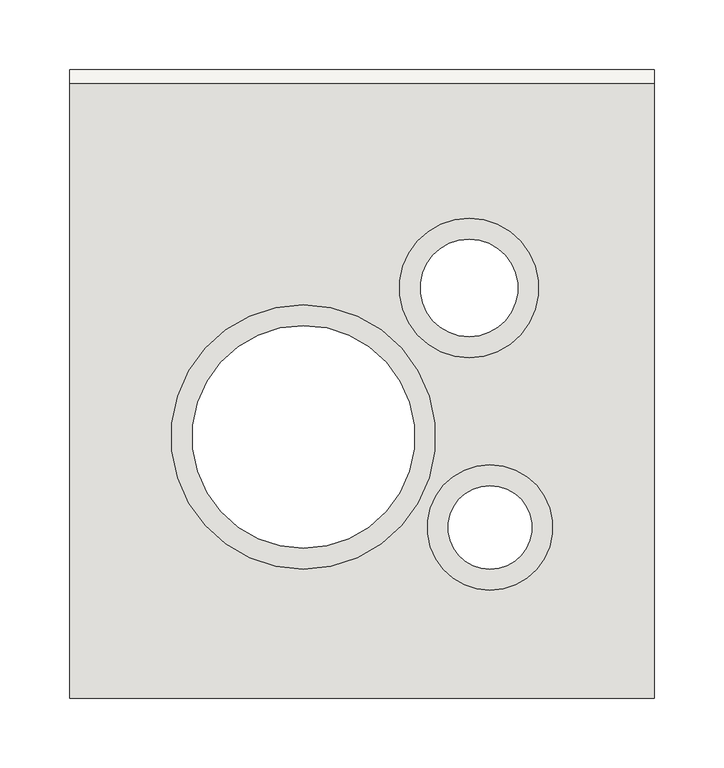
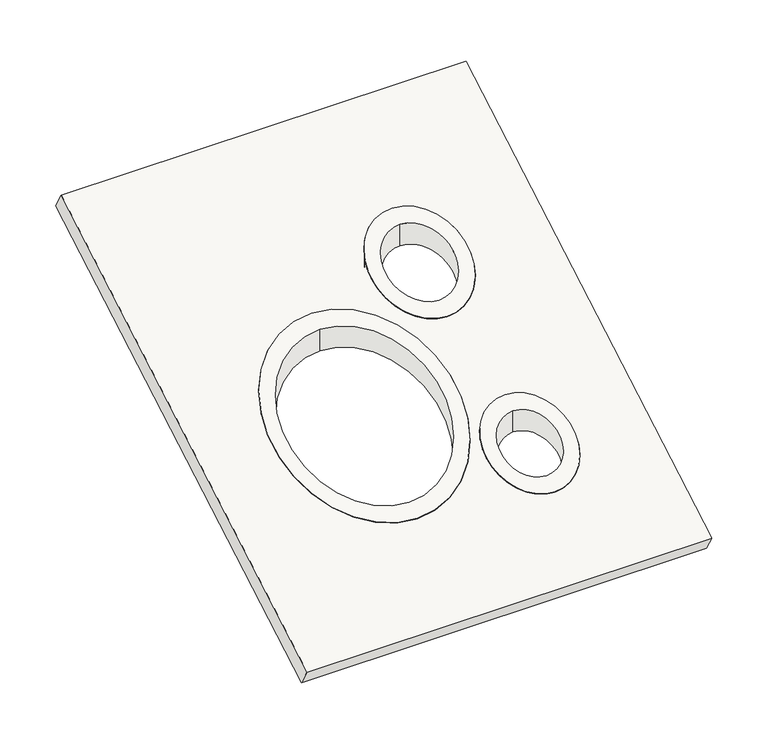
"""IFC4 building model written with IfcOpenShell, lengths in millimetres: covering geometry, NLRS_50_GM_WPB_Mini Delta _roofboard_M&G : roofboard Mini-Delta."""

from ifc_helpers import new_model, si_unit, frame, origin, place, context, project, spatial, polyline, ellipse_curve, source, transform, mapped, element, save
from ifc_brep_helpers import plane_surface, cylinder_surface, revolved_surface, advanced_brep


def covering_5e2194ae(model_context):
    return source(origin(), model_context, "Body", "AdvancedBrep", [
        advanced_brep(
        [(-42.0, 47.0, 4.0414519), (-42.0, -113.0, -88.3345912), (-42.0, -113.0, -65.2405804), (-42.0, 47.0, 27.1354627), (-42.0, -128.0, -96.9948452), (-42.0, 62.0, 12.7017059), (-42.0, 62.0, 35.7957167), (-42.0, -128.0, -73.9008345)],
        [
            (0, 1, ellipse_curve(frame((-42.0, -33.0, -42.1465697), z_axis=(0.0, 0.4999999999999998, -0.8660254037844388), x_axis=(0.0, -0.866025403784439, -0.49999999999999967)), 92.3760431, 80.0)),
            (1, 2),
            (2, 3, ellipse_curve(frame((-42.0, -33.0, -19.0525589), z_axis=(0.0, -0.4999999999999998, 0.8660254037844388), x_axis=(0.0, -0.866025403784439, -0.49999999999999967)), 92.3760431, 80.0)),
            (3, 0),
            (1, 0, ellipse_curve(frame((-42.0, -33.0, -42.1465697), z_axis=(0.0, 0.4999999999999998, -0.8660254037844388), x_axis=(0.0, -0.866025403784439, -0.49999999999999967)), 92.3760431, 80.0)),
            (3, 2, ellipse_curve(frame((-42.0, -33.0, -19.0525589), z_axis=(0.0, -0.4999999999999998, 0.8660254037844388), x_axis=(0.0, -0.866025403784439, -0.49999999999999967)), 92.3760431, 80.0)),
            (4, 5, ellipse_curve(frame((-42.0, -33.0, -42.1465697), z_axis=(0.0, -0.4999999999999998, 0.8660254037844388), x_axis=(0.0, 0.866025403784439, 0.49999999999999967)), 109.6965511, 95.0)),
            (5, 6),
            (6, 7, ellipse_curve(frame((-42.0, -33.0, -19.0525589), z_axis=(0.0, 0.4999999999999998, -0.8660254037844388), x_axis=(0.0, 0.866025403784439, 0.49999999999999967)), 109.6965511, 95.0)),
            (7, 4),
            (5, 4, ellipse_curve(frame((-42.0, -33.0, -42.1465697), z_axis=(0.0, -0.4999999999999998, 0.8660254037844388), x_axis=(0.0, 0.866025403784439, 0.49999999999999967)), 109.6965511, 95.0)),
            (7, 6, ellipse_curve(frame((-42.0, -33.0, -19.0525589), z_axis=(0.0, 0.4999999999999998, -0.8660254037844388), x_axis=(0.0, 0.866025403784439, 0.49999999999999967)), 109.6965511, 95.0)),
        ],
        [
            revolved_surface(polyline([(-42.0, 47.0, -88.33459124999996), (-42.0, 47.0, 27.135462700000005)]), (-42.0, -33.0, -200.0), (0.0, 0.0, -1.0)),
            cylinder_surface(frame((-42.0, -33.0, 0.0), z_axis=(0.0, 0.0, 1.0), x_axis=(0.0, 1.0, 0.0)), 95.0),
            plane_surface(frame((210.0, -210.836478, -144.8205081), z_axis=(0.0, 0.4999999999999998, -0.8660254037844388), x_axis=(0.0, 0.8660254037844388, 0.4999999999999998))),
            plane_surface(frame((210.0, -220.836478, -127.5), z_axis=(0.0, -0.4999999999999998, 0.8660254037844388), x_axis=(0.0, -0.8660254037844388, -0.4999999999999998))),
        ],
        [
            (0, [[1, 2, 3, 4]]),
            (0, [[5, -4, 6, -2]]),
            (1, [[7, 8, 9, 10]]),
            (1, [[11, -10, 12, -8]]),
            (2, [[-7, -11], [-1, -5]]),
            (3, [[-9, -12], [-3, -6]]),
        ],
    ),
        advanced_brep(
        [(92.0, -68.0, -62.3538291), (92.0, -128.0, -96.9948452), (92.0, -128.0, -73.9008345), (92.0, -68.0, -39.2598183), (92.0, -143.0, -105.6550993), (92.0, -53.0, -53.693575), (92.0, -53.0, -30.5995643), (92.0, -143.0, -82.5610885)],
        [
            (0, 1, ellipse_curve(frame((92.0, -98.0, -79.6743371), z_axis=(0.0, 0.4999999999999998, -0.8660254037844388), x_axis=(0.0, -0.866025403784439, -0.49999999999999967)), 34.6410162, 30.0)),
            (1, 2),
            (2, 3, ellipse_curve(frame((92.0, -98.0, -56.5803264), z_axis=(0.0, -0.4999999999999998, 0.8660254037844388), x_axis=(0.0, -0.866025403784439, -0.49999999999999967)), 34.6410162, 30.0)),
            (3, 0),
            (1, 0, ellipse_curve(frame((92.0, -98.0, -79.6743371), z_axis=(0.0, 0.4999999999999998, -0.8660254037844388), x_axis=(0.0, -0.866025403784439, -0.49999999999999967)), 34.6410162, 30.0)),
            (3, 2, ellipse_curve(frame((92.0, -98.0, -56.5803264), z_axis=(0.0, -0.4999999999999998, 0.8660254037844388), x_axis=(0.0, -0.866025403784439, -0.49999999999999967)), 34.6410162, 30.0)),
            (4, 5, ellipse_curve(frame((92.0, -98.0, -79.6743371), z_axis=(0.0, -0.4999999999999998, 0.8660254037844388), x_axis=(0.0, 0.866025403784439, 0.49999999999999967)), 51.9615242, 45.0)),
            (5, 6),
            (6, 7, ellipse_curve(frame((92.0, -98.0, -56.5803264), z_axis=(0.0, 0.4999999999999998, -0.8660254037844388), x_axis=(0.0, 0.866025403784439, 0.49999999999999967)), 51.9615242, 45.0)),
            (7, 4),
            (5, 4, ellipse_curve(frame((92.0, -98.0, -79.6743371), z_axis=(0.0, -0.4999999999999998, 0.8660254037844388), x_axis=(0.0, 0.866025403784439, 0.49999999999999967)), 51.9615242, 45.0)),
            (7, 6, ellipse_curve(frame((92.0, -98.0, -56.5803264), z_axis=(0.0, 0.4999999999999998, -0.8660254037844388), x_axis=(0.0, 0.866025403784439, 0.49999999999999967)), 51.9615242, 45.0)),
        ],
        [
            revolved_surface(polyline([(92.0, -68.0, -96.9948452), (92.0, -68.0, -39.259818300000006)]), (92.0, -98.0, -200.0), (0.0, 0.0, -1.0)),
            cylinder_surface(frame((92.0, -98.0, 0.0), z_axis=(0.0, 0.0, 1.0), x_axis=(0.0, 1.0, 0.0)), 45.0),
            plane_surface(frame((210.0, -210.836478, -144.8205081), z_axis=(0.0, 0.4999999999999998, -0.8660254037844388), x_axis=(0.0, 0.8660254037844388, 0.4999999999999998))),
            plane_surface(frame((210.0, -220.836478, -127.5), z_axis=(0.0, -0.4999999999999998, 0.8660254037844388), x_axis=(0.0, -0.8660254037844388, -0.4999999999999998))),
        ],
        [
            (0, [[1, 2, 3, 4]]),
            (0, [[5, -4, 6, -2]]),
            (1, [[7, 8, 9, 10]]),
            (1, [[11, -10, 12, -8]]),
            (2, [[-7, -11], [-1, -5]]),
            (3, [[-9, -12], [-3, -6]]),
        ],
    ),
        advanced_brep(
        [(77.0, 39.0, 22.5166605), (77.0, 109.0, 62.9311793), (77.0, 109.0, 39.8371686), (77.0, 39.0, -0.5773503), (77.0, 124.0, 71.5914334), (77.0, 24.0, 13.8564065), (77.0, 24.0, -9.2376043), (77.0, 124.0, 48.4974226)],
        [
            (0, 1, ellipse_curve(frame((77.0, 74.0, 42.7239199), z_axis=(0.0, -0.4999999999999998, 0.8660254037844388), x_axis=(0.0, -0.866025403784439, -0.49999999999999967)), 40.4145188, 35.0)),
            (1, 2),
            (2, 3, ellipse_curve(frame((77.0, 74.0, 19.6299092), z_axis=(0.0, 0.4999999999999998, -0.8660254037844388), x_axis=(0.0, -0.866025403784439, -0.49999999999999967)), 40.4145188, 35.0)),
            (3, 0),
            (1, 0, ellipse_curve(frame((77.0, 74.0, 42.7239199), z_axis=(0.0, -0.4999999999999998, 0.8660254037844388), x_axis=(0.0, -0.866025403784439, -0.49999999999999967)), 40.4145188, 35.0)),
            (3, 2, ellipse_curve(frame((77.0, 74.0, 19.6299092), z_axis=(0.0, 0.4999999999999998, -0.8660254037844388), x_axis=(0.0, -0.866025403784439, -0.49999999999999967)), 40.4145188, 35.0)),
            (4, 5, ellipse_curve(frame((77.0, 74.0, 42.7239199), z_axis=(0.0, 0.4999999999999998, -0.8660254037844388), x_axis=(0.0, 0.866025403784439, 0.49999999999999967)), 57.7350269, 50.0)),
            (5, 6),
            (6, 7, ellipse_curve(frame((77.0, 74.0, 19.6299092), z_axis=(0.0, -0.4999999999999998, 0.8660254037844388), x_axis=(0.0, 0.866025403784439, 0.49999999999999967)), 57.7350269, 50.0)),
            (7, 4),
            (5, 4, ellipse_curve(frame((77.0, 74.0, 42.7239199), z_axis=(0.0, 0.4999999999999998, -0.8660254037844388), x_axis=(0.0, 0.866025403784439, 0.49999999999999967)), 57.7350269, 50.0)),
            (7, 6, ellipse_curve(frame((77.0, 74.0, 19.6299092), z_axis=(0.0, -0.4999999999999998, 0.8660254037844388), x_axis=(0.0, 0.866025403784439, 0.49999999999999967)), 57.7350269, 50.0)),
        ],
        [
            revolved_surface(polyline([(77.0, 109.0, -0.5773503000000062), (77.0, 109.0, 62.9311793)]), (77.0, 74.0, -200.0), (0.0, 0.0, -1.0)),
            cylinder_surface(frame((77.0, 74.0, 0.0), z_axis=(0.0, 0.0, 1.0), x_axis=(0.0, 1.0, 0.0)), 50.0),
            plane_surface(frame((210.0, -220.836478, -127.5), z_axis=(0.0, -0.4999999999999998, 0.8660254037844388), x_axis=(0.0, -0.8660254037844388, -0.4999999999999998))),
            plane_surface(frame((210.0, -210.836478, -144.8205081), z_axis=(0.0, 0.4999999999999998, -0.8660254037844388), x_axis=(0.0, 0.8660254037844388, 0.4999999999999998))),
        ],
        [
            (0, [[1, 2, 3, 4]]),
            (0, [[5, -4, 6, -2]]),
            (1, [[7, 8, 9, 10]]),
            (1, [[11, -10, 12, -8]]),
            (2, [[-7, -11], [-1, -5]]),
            (3, [[-9, -12], [-3, -6]]),
        ],
    ),
        advanced_brep(
        [(210.0, -210.836478, -144.8205081), (-210.0, -210.836478, -144.8205081), (-210.0, 230.836478, 110.1794919), (210.0, 230.836478, 110.1794919), (-42.0, -128.0, -96.9948452), (-42.0, 62.0, 12.7017059), (77.0, 24.0, -9.2376043), (77.0, 124.0, 48.4974226), (92.0, -143.0, -105.6550993), (92.0, -53.0, -53.693575), (210.0, -220.836478, -127.5), (210.0, 220.836478, 127.5), (-210.0, 220.836478, 127.5), (-210.0, -220.836478, -127.5), (-42.0, 62.0, 35.7957167), (-42.0, -128.0, -73.9008345), (77.0, 124.0, 71.5914334), (77.0, 24.0, 13.8564065), (92.0, -53.0, -30.5995643), (92.0, -143.0, -82.5610885)],
        [
            (0, 1),
            (1, 2),
            (2, 3),
            (3, 0),
            (4, 5, ellipse_curve(frame((-42.0, -33.0, -42.1465697), z_axis=(0.0, -0.4999999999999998, 0.8660254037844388), x_axis=(0.0, 0.866025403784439, 0.49999999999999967)), 109.6965511, 95.0)),
            (5, 4, ellipse_curve(frame((-42.0, -33.0, -42.1465697), z_axis=(0.0, -0.4999999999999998, 0.8660254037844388), x_axis=(0.0, 0.866025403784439, 0.49999999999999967)), 109.6965511, 95.0)),
            (6, 7, ellipse_curve(frame((77.0, 74.0, 19.6299092), z_axis=(0.0, -0.4999999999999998, 0.8660254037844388), x_axis=(0.0, 0.866025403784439, 0.49999999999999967)), 57.7350269, 50.0)),
            (7, 6, ellipse_curve(frame((77.0, 74.0, 19.6299092), z_axis=(0.0, -0.4999999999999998, 0.8660254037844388), x_axis=(0.0, 0.866025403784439, 0.49999999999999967)), 57.7350269, 50.0)),
            (8, 9, ellipse_curve(frame((92.0, -98.0, -79.6743371), z_axis=(0.0, -0.4999999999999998, 0.8660254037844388), x_axis=(0.0, 0.866025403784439, 0.49999999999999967)), 51.9615242, 45.0)),
            (9, 8, ellipse_curve(frame((92.0, -98.0, -79.6743371), z_axis=(0.0, -0.4999999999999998, 0.8660254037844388), x_axis=(0.0, 0.866025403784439, 0.49999999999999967)), 51.9615242, 45.0)),
            (10, 11),
            (11, 12),
            (12, 13),
            (13, 10),
            (14, 15, ellipse_curve(frame((-42.0, -33.0, -19.0525589), z_axis=(0.0, 0.4999999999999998, -0.8660254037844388), x_axis=(0.0, 0.866025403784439, 0.49999999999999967)), 109.6965511, 95.0)),
            (15, 14, ellipse_curve(frame((-42.0, -33.0, -19.0525589), z_axis=(0.0, 0.4999999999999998, -0.8660254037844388), x_axis=(0.0, 0.866025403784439, 0.49999999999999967)), 109.6965511, 95.0)),
            (16, 17, ellipse_curve(frame((77.0, 74.0, 42.7239199), z_axis=(0.0, 0.4999999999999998, -0.8660254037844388), x_axis=(0.0, 0.866025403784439, 0.49999999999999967)), 57.7350269, 50.0)),
            (17, 16, ellipse_curve(frame((77.0, 74.0, 42.7239199), z_axis=(0.0, 0.4999999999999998, -0.8660254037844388), x_axis=(0.0, 0.866025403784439, 0.49999999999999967)), 57.7350269, 50.0)),
            (18, 19, ellipse_curve(frame((92.0, -98.0, -56.5803264), z_axis=(0.0, 0.4999999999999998, -0.8660254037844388), x_axis=(0.0, 0.866025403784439, 0.49999999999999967)), 51.9615242, 45.0)),
            (19, 18, ellipse_curve(frame((92.0, -98.0, -56.5803264), z_axis=(0.0, 0.4999999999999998, -0.8660254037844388), x_axis=(0.0, 0.866025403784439, 0.49999999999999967)), 51.9615242, 45.0)),
            (3, 11),
            (10, 0),
            (2, 12),
            (1, 13),
            (4, 15),
            (14, 5),
            (8, 19),
            (18, 9),
            (6, 17),
            (16, 7),
        ],
        [
            plane_surface(frame((210.0, -210.836478, -144.8205081), z_axis=(0.0, 0.4999999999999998, -0.8660254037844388), x_axis=(0.0, -0.8660254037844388, -0.4999999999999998))),
            plane_surface(frame((210.0, -220.836478, -127.5), z_axis=(0.0, -0.4999999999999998, 0.8660254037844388), x_axis=(0.0, 0.8660254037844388, 0.4999999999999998))),
            plane_surface(frame((210.0, -220.836478, -127.5), z_axis=(1.0, 0.0, 0.0), x_axis=(0.0, 0.5000000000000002, -0.8660254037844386))),
            plane_surface(frame((210.0, 220.836478, 127.5), z_axis=(0.0, 0.8660254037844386, 0.5000000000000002), x_axis=(0.0, 0.5000000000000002, -0.8660254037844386))),
            plane_surface(frame((-210.0, 220.836478, 127.5), z_axis=(-1.0, 0.0, 0.0), x_axis=(0.0, 0.5000000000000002, -0.8660254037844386))),
            plane_surface(frame((-210.0, -220.836478, -127.5), z_axis=(0.0, -0.8660254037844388, -0.49999999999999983), x_axis=(0.0, 0.49999999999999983, -0.8660254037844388))),
            revolved_surface(polyline([(-42.0, 62.0, 35.795716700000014), (-42.0, 62.0, -96.99484524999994)]), (-42.0, -33.0, -350.0), (0.0, 0.0, 1.0)),
            revolved_surface(polyline([(92.0, -53.0, -30.599564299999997), (92.0, -53.0, -105.6550993)]), (92.0, -98.0, -200.0), (0.0, 0.0, 1.0)),
            revolved_surface(polyline([(77.0, 124.0, 71.59143340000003), (77.0, 124.0, -9.237604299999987)]), (77.0, 74.0, -200.0), (0.0, 0.0, 1.0)),
        ],
        [
            (0, [[1, 2, 3, 4], [5, 6], [7, 8], [9, 10]]),
            (1, [[11, 12, 13, 14], [15, 16], [17, 18], [19, 20]]),
            (2, [[-4, 21, -11, 22]]),
            (3, [[-3, 23, -12, -21]]),
            (4, [[-2, 24, -13, -23]]),
            (5, [[-1, -22, -14, -24]]),
            (6, [[25, -15, 26, -5]]),
            (6, [[-25, -6, -26, -16]]),
            (7, [[27, -19, 28, -9]]),
            (7, [[-27, -10, -28, -20]]),
            (8, [[29, -17, 30, -7]]),
            (8, [[-29, -8, -30, -18]]),
        ],
    ),
    ])


if __name__ == "__main__":
    model = new_model("IFC4")
    model_context = context("Model", 3, world=origin())
    ifc_project = project(units=[si_unit("LENGTHUNIT", "METRE", prefix="MILLI")], contexts=[model_context])
    site = spatial("IfcSite", under=ifc_project)
    building = spatial("IfcBuilding", under=site)
    placement = place(None, origin())
    covering_shape = covering_5e2194ae(model_context)
    element("IfcCovering", 1, ObjectType="NLRS_50_GM_WPB_Mini Delta _roofboard_M&G : roofboard Mini-Delta", at=placement, inside=building, context=model_context, shape_type="MappedRepresentation", body=[
        mapped(covering_shape, transform((0.0, 0.0, 0.0), x_axis=(1.0, 0.0, 0.0), y_axis=(0.0, 1.0, 0.0), z_axis=(0.0, 0.0, 1.0))),
    ])
    save(model, "model.ifc")
